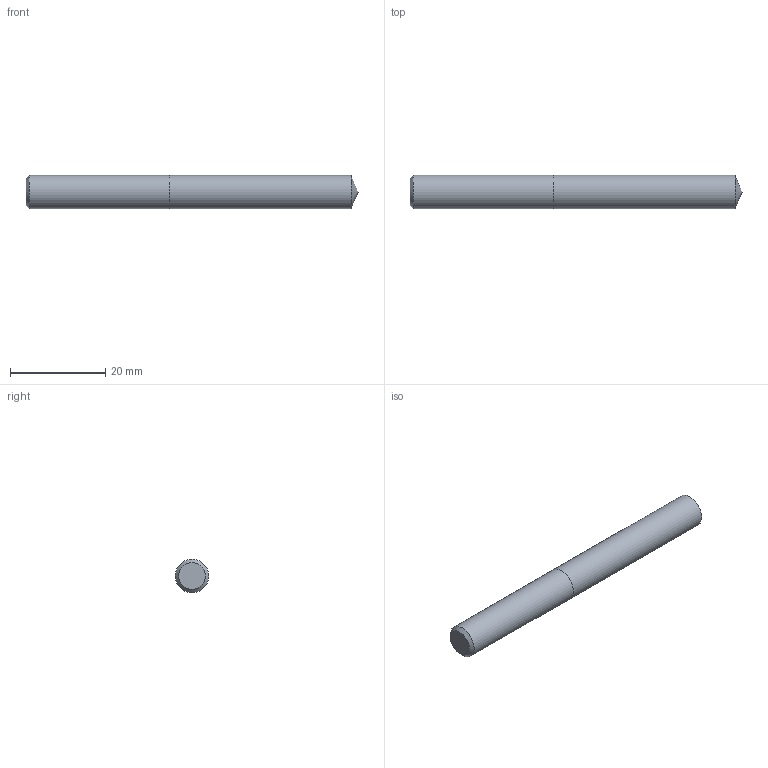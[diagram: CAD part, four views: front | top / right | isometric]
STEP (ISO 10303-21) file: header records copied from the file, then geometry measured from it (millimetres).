
FILE_DESCRIPTION (( 'STEP AP214' ), '1' );
FILE_NAME ('03-2326.STEP', '2022-06-03T06:15:11', ( 'USER' ), ( '' ), 'SwSTEP 2.0', 'SolidWorks 2018', '' );
FILE_SCHEMA (( 'AUTOMOTIVE_DESIGN' ));
Length unit declared in the file: inch
Products named in the file (1): 03-2326
Bounding box: 69.72 x 7.04 x 7.04 mm (x, y, z)
Volume: 2667.8 mm3; surface area: 1657.8 mm2
Topology: 2 solids, 2 shells, 7 faces, 11 edges, 7 vertices
Faces by surface type: plane 3, cylinder 2, cone 2
Full cylindrical faces by diameter (mm): 7.036 x2
Entity records: 214 total; most frequent: DIRECTION 26, CARTESIAN_POINT 18, AXIS2_PLACEMENT_3D 13, ORIENTED_EDGE 10, EDGE_LOOP 10, FACE_OUTER_BOUND 9, LENGTH_MEASURE_WITH_UNIT 7, ADVANCED_FACE 7
